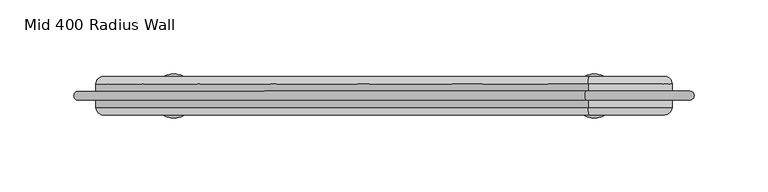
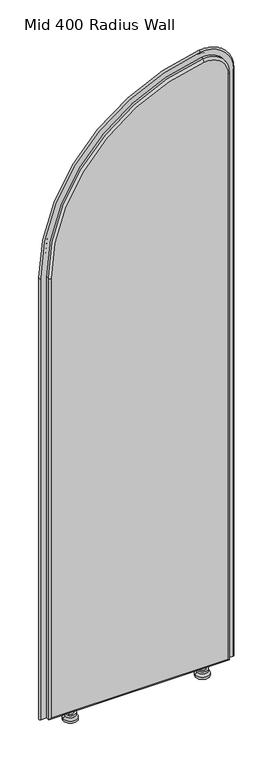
"""IFC4 building model written with IfcOpenShell, lengths in millimetres: furniture geometry, DBLTD_Sixteen3_PrivacyScreens_Artus_ArchRadius : Mid 400 Radius Wall."""

from ifc_helpers import new_model, si_unit, point, frame, origin, place, context, project, spatial, polyline, circle_curve, ellipse_curve, trimmed, source, transform, mapped, element, save
from ifc_brep_helpers import plane_surface, cylinder_surface, revolved_surface, advanced_brep


def mid_400_radius_wall_c67583d0(model_context):
    return source(origin(), model_context, "Body", "AdvancedBrep", [
        advanced_brep(
        [(-190.0, -807.0000009, 27.0), (-190.0, -807.0000009, 1025.0), (138.9552239, -807.0000009, 1401.5560129), (190.0, -807.0000009, 1356.9638535), (190.0, -807.0000009, 27.0), (190.0, -833.0000009, 27.0), (190.0, -833.0000009, 1356.9638535), (138.9552239, -833.0000009, 1401.5560129), (-190.0, -833.0000009, 1025.0), (-190.0, -833.0000009, 27.0), (138.2835821, -812.0000009, 1406.5106973), (-195.0, -812.0000009, 1025.0), (-195.0, -828.0000009, 1025.0), (138.2835821, -828.0000009, 1406.5106973), (-195.0, -812.0000009, 22.0), (-195.0, -828.0000009, 22.0), (195.0, -812.0000009, 22.0), (195.0, -828.0000009, 22.0), (195.0, -812.0000009, 1356.9638535), (195.0, -828.0000009, 1356.9638535)],
        [
            (0, 1),
            (1, 2, circle_curve(frame((190.0, -807.0000009, 1025.0), z_axis=(0.0, 1.0, 0.0), x_axis=(-0.13432835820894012, 0.0, 0.9909368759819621)), 380.0)),
            (2, 3, circle_curve(frame((145.0, -807.0000009, 1356.9638535), z_axis=(0.0, 1.0, 0.0), x_axis=(1.0, 0.0, 0.0)), 45.0)),
            (3, 4),
            (4, 0),
            (5, 6),
            (6, 7, circle_curve(frame((145.0, -833.0000009, 1356.9638535), z_axis=(0.0, -1.0, 0.0), x_axis=(1.0, 0.0, 0.0)), 45.0)),
            (7, 8, circle_curve(frame((190.0, -833.0000009, 1025.0), z_axis=(0.0, -1.0, 0.0), x_axis=(-0.13432835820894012, 0.0, 0.9909368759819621)), 380.0)),
            (8, 9),
            (9, 5),
            (10, 11, circle_curve(frame((190.0, -812.0000009, 1025.0), z_axis=(0.0, -1.0, 0.0), x_axis=(1.0, 0.0, 0.0)), 385.0)),
            (11, 12),
            (12, 13, circle_curve(frame((190.0, -828.0000009, 1025.0), z_axis=(0.0, 1.0, 0.0), x_axis=(1.0, 0.0, 0.0)), 385.0)),
            (13, 10),
            (11, 14),
            (14, 15),
            (15, 12),
            (14, 16),
            (16, 17),
            (17, 15),
            (16, 18),
            (18, 19),
            (19, 17),
            (13, 19, circle_curve(frame((145.0, -828.0000009, 1356.9638535), z_axis=(0.0, 1.0, 0.0), x_axis=(1.0, 0.0, 0.0)), 50.0)),
            (18, 10, circle_curve(frame((145.0, -812.0000009, 1356.9638535), z_axis=(0.0, -1.0, 0.0), x_axis=(1.0, 0.0, 0.0)), 50.0)),
            (14, 0, ellipse_curve(frame((-190.0, -812.0000009, 27.0), z_axis=(0.7071067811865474, 0.0, -0.7071067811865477), x_axis=(0.7071067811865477, 0.0, 0.7071067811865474)), 7.0710678, 5.0)),
            (4, 16, ellipse_curve(frame((190.0, -812.0000009, 27.0), z_axis=(-0.7071067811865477, 0.0, -0.7071067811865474), x_axis=(0.7071067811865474, 0.0, -0.7071067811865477)), 7.0710678, 5.0)),
            (9, 15, ellipse_curve(frame((-190.0, -828.0000009, 27.0), z_axis=(0.7071067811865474, 0.0, -0.7071067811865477), x_axis=(0.7071067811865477, 0.0, 0.7071067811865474)), 7.0710678, 5.0)),
            (17, 5, ellipse_curve(frame((190.0, -828.0000009, 27.0), z_axis=(-0.7071067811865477, 0.0, -0.7071067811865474), x_axis=(0.7071067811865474, 0.0, -0.7071067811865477)), 7.0710678, 5.0)),
            (3, 18, circle_curve(frame((190.0, -812.0000009, 1356.9638535), z_axis=(0.0, 0.0, -1.0), x_axis=(1.0, 0.0, 0.0)), 5.0)),
            (19, 6, circle_curve(frame((190.0, -828.0000009, 1356.9638535), z_axis=(0.0, 0.0, -1.0), x_axis=(1.0, 0.0, 0.0)), 5.0)),
            (2, 10, circle_curve(frame((138.9552239, -812.0000009, 1401.5560129), z_axis=(0.9909368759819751, 0.0, 0.13432835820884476), x_axis=(-0.13432835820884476, 0.0, 0.9909368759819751)), 5.0)),
            (13, 7, circle_curve(frame((138.9552239, -828.0000009, 1401.5560129), z_axis=(0.9909368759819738, 0.0, 0.13432835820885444), x_axis=(-0.13432835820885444, 0.0, 0.9909368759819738)), 5.0)),
            (1, 11, circle_curve(frame((-190.0, -812.0000009, 1025.0), z_axis=(0.0, 0.0, 0.9999999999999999), x_axis=(-0.9999999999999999, 0.0, 0.0)), 5.0)),
            (12, 8, circle_curve(frame((-190.0, -828.0000009, 1025.0), z_axis=(0.0, 0.0, 1.0), x_axis=(-1.0, 0.0, 0.0)), 5.0)),
        ],
        [
            plane_surface(frame((-195.0, -807.0000009, 22.0), z_axis=(0.0, 1.0, 0.0), x_axis=(0.0, 0.0, -1.0))),
            plane_surface(frame((-195.0, -833.0000009, 22.0), z_axis=(0.0, -1.0, 0.0), x_axis=(0.0, 0.0, 1.0))),
            cylinder_surface(frame((190.0, -833.0000009, 1025.0), z_axis=(0.0, 1.0, 0.0), x_axis=(1.0, 0.0, 0.0)), 385.0),
            plane_surface(frame((-195.0, -807.0000009, 1025.0), z_axis=(-1.0, 0.0, 0.0), x_axis=(0.0, -1.0, 0.0))),
            plane_surface(frame((-195.0, -807.0000009, 22.0), z_axis=(0.0, 0.0, -1.0), x_axis=(0.0, -1.0, 0.0))),
            plane_surface(frame((195.0, -807.0000009, 22.0), z_axis=(1.0, 0.0, 0.0), x_axis=(0.0, -1.0, 0.0))),
            cylinder_surface(frame((145.0, -833.0000009, 1356.9638535), z_axis=(0.0, 1.0, 0.0), x_axis=(1.0, 0.0, 0.0)), 50.0),
            cylinder_surface(frame((-195.0, -812.0000009, 27.0), z_axis=(1.0, 0.0, 0.0), x_axis=(0.0, 0.0, -1.0)), 5.0),
            cylinder_surface(frame((-195.0, -828.0000009, 27.0), z_axis=(1.0, 0.0, 0.0), x_axis=(0.0, 0.0, -1.0)), 5.0),
            cylinder_surface(frame((190.0, -812.0000009, 22.0), z_axis=(0.0, 0.0, 1.0), x_axis=(1.0, 0.0, 0.0)), 5.0),
            cylinder_surface(frame((190.0, -828.0000009, 22.0), z_axis=(0.0, 0.0, 1.0), x_axis=(1.0, 0.0, 0.0)), 5.0),
            revolved_surface(trimmed(ellipse_curve(frame((190.0, -812.0000009, 1356.9638535), z_axis=(0.0, 0.0, 1.0), x_axis=(1.0, 0.0, 0.0)), 5.0, 5.0), [point((195.0, -812.0000009, 1356.9638535))], [point((190.0, -807.0000009, 1356.9638535))], True, "CARTESIAN"), (145.0, -807.0000009, 1356.9638535), (0.0, 1.0, 0.0)),
            revolved_surface(trimmed(ellipse_curve(frame((190.0, -828.0000009, 1356.9638535), z_axis=(0.0, 0.0, 1.0), x_axis=(1.0, 0.0, 0.0)), 5.0, 5.0), [point((190.0, -833.0000009, 1356.9638535))], [point((195.0, -828.0000009, 1356.9638535))], True, "CARTESIAN"), (145.0, -807.0000009, 1356.9638535), (0.0, 1.0, 0.0)),
            revolved_surface(trimmed(ellipse_curve(frame((138.9552239, -812.0000009, 1401.5560129), z_axis=(-0.9909368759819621, 0.0, -0.13432835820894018), x_axis=(-0.13432835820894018, 0.0, 0.9909368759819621)), 5.0, 5.0), [point((138.2835821, -812.0000009, 1406.5106973))], [point((138.9552239, -807.0000009, 1401.5560129))], True, "CARTESIAN"), (190.0, -807.0000009, 1025.0), (0.0, 1.0, 0.0)),
            revolved_surface(trimmed(ellipse_curve(frame((138.9552239, -828.0000009, 1401.5560129), z_axis=(-0.9909368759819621, 0.0, -0.13432835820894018), x_axis=(-0.13432835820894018, 0.0, 0.9909368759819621)), 5.0, 5.0), [point((138.9552239, -833.0000009, 1401.5560129))], [point((138.2835821, -828.0000009, 1406.5106973))], True, "CARTESIAN"), (190.0, -807.0000009, 1025.0), (0.0, 1.0, 0.0)),
            cylinder_surface(frame((-190.0, -812.0000009, 1025.0), z_axis=(0.0, 0.0, -1.0), x_axis=(-1.0, 0.0, 0.0)), 5.0),
            cylinder_surface(frame((-190.0, -828.0000009, 1025.0), z_axis=(0.0, 0.0, -1.0), x_axis=(-1.0, 0.0, 0.0)), 5.0),
        ],
        [
            (0, [[1, 2, 3, 4, 5]]),
            (1, [[6, 7, 8, 9, 10]]),
            (2, [[11, 12, 13, 14]]),
            (3, [[15, 16, 17, -12]]),
            (4, [[18, 19, 20, -16]]),
            (5, [[21, 22, 23, -19]]),
            (6, [[24, -22, 25, -14]]),
            (7, [[-18, 26, -5, 27]]),
            (8, [[-10, 28, -20, 29]]),
            (9, [[-4, 30, -21, -27]]),
            (10, [[-23, 31, -6, -29]]),
            (11, [[-3, 32, -25, -30]]),
            (12, [[-24, 33, -7, -31]]),
            (13, [[-2, 34, -11, -32]]),
            (14, [[-13, 35, -8, -33]]),
            (15, [[-15, -34, -1, -26]]),
            (16, [[-9, -35, -17, -28]]),
        ],
    ),
        advanced_brep(
        [(206.9577057, -823.0000009, 22.0), (195.0, -823.0000009, 22.0), (195.0, -817.0000009, 22.0), (206.9577057, -817.0000009, 22.0), (-206.9577057, -823.0000009, 22.0), (-206.9577057, -817.0000009, 22.0), (-195.0, -817.0000009, 22.0), (-195.0, -823.0000009, 22.0), (206.9577057, -817.0000009, 1356.9638535), (206.9577057, -823.0000009, 1356.9638535), (195.0, -817.0000009, 1356.9638535), (138.2835821, -817.0000009, 1406.5106973), (-195.0, -817.0000009, 1025.0), (-206.9577057, -817.0000009, 1025.0), (136.6773231, -817.0000009, 1418.3600288), (195.0, -823.0000009, 1356.9638535), (136.6773231, -823.0000009, 1418.3600288), (-206.9577057, -823.0000009, 1025.0), (-195.0, -823.0000009, 1025.0), (138.2835821, -823.0000009, 1406.5106973)],
        [
            (0, 1),
            (1, 2),
            (2, 3),
            (3, 0, circle_curve(frame((206.9577057, -820.0000009, 22.0), z_axis=(0.0, 0.0, -1.0), x_axis=(1.0, 0.0, 0.0)), 3.0)),
            (4, 5, circle_curve(frame((-206.9577057, -820.0000009, 22.0), z_axis=(0.0, 0.0, -1.0), x_axis=(-1.0, 0.0, 0.0)), 3.0)),
            (5, 6),
            (6, 7),
            (7, 4),
            (3, 8),
            (8, 9, circle_curve(frame((206.9577057, -820.0000009, 1356.9638535), z_axis=(0.0, 0.0, -1.0), x_axis=(1.0, 0.0, 0.0)), 3.0)),
            (9, 0),
            (2, 10),
            (10, 11, circle_curve(frame((145.0, -817.0000009, 1356.9638535), z_axis=(0.0, -1.0, 0.0), x_axis=(1.0, 0.0, 0.0)), 50.0)),
            (11, 12, circle_curve(frame((190.0, -817.0000009, 1025.0), z_axis=(0.0, -1.0, 0.0), x_axis=(-0.13432835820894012, 0.0, 0.9909368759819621)), 385.0)),
            (12, 6),
            (5, 13),
            (13, 14, circle_curve(frame((190.0, -817.0000009, 1025.0), z_axis=(0.0, 1.0, 0.0), x_axis=(-0.13432835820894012, 0.0, 0.9909368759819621)), 396.9577057)),
            (14, 8, circle_curve(frame((145.0, -817.0000009, 1356.9638535), z_axis=(0.0, 1.0, 0.0), x_axis=(1.0, 0.0, 0.0)), 61.9577057)),
            (1, 15),
            (15, 10),
            (9, 16, circle_curve(frame((145.0, -823.0000009, 1356.9638535), z_axis=(0.0, -1.0, 0.0), x_axis=(1.0, 0.0, 0.0)), 61.9577057)),
            (16, 17, circle_curve(frame((190.0, -823.0000009, 1025.0), z_axis=(0.0, -1.0, 0.0), x_axis=(-0.13432835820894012, 0.0, 0.9909368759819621)), 396.9577057)),
            (17, 4),
            (7, 18),
            (18, 19, circle_curve(frame((190.0, -823.0000009, 1025.0), z_axis=(0.0, 1.0, 0.0), x_axis=(-0.13432835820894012, 0.0, 0.9909368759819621)), 385.0)),
            (19, 15, circle_curve(frame((145.0, -823.0000009, 1356.9638535), z_axis=(0.0, 1.0, 0.0), x_axis=(1.0, 0.0, 0.0)), 50.0)),
            (14, 16, circle_curve(frame((136.6773231, -820.0000009, 1418.3600288), z_axis=(0.9909368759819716, 0.0, 0.13432835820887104), x_axis=(-0.13432835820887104, 0.0, 0.9909368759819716)), 3.0)),
            (19, 11),
            (13, 17, circle_curve(frame((-206.9577057, -820.0000009, 1025.0), z_axis=(0.0, 0.0, 0.9999999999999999), x_axis=(-0.9999999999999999, 0.0, 0.0)), 3.0)),
            (18, 12),
        ],
        [
            plane_surface(frame((195.0, -807.0000009, 22.0), z_axis=(0.0, 0.0, -1.0), x_axis=(1.0, 0.0, 0.0))),
            plane_surface(frame((-195.0, -807.0000009, 22.0), z_axis=(0.0, 0.0, -1.0), x_axis=(-1.0, 0.0, 0.0))),
            cylinder_surface(frame((206.9577057, -820.0000009, 22.0), z_axis=(0.0, 0.0, -1.0), x_axis=(1.0, 0.0, 0.0)), 3.0),
            plane_surface(frame((206.9577057, -817.0000009, 22.0), z_axis=(0.0, 1.0, 0.0), x_axis=(0.0, 0.0, 1.0))),
            plane_surface(frame((195.0, -817.0000009, 22.0), z_axis=(-1.0, 0.0, 0.0), x_axis=(0.0, 0.0, 1.0))),
            plane_surface(frame((195.0, -823.0000009, 22.0), z_axis=(0.0, -1.0, 0.0), x_axis=(0.0, 0.0, 1.0))),
            revolved_surface(trimmed(ellipse_curve(frame((206.9577057, -820.0000009, 1356.9638535), z_axis=(0.0, 0.0, 1.0), x_axis=(1.0, 0.0, 0.0)), 3.0, 3.0), [point((206.9577057, -823.0000009, 1356.9638535))], [point((206.9577057, -817.0000009, 1356.9638535))], True, "CARTESIAN"), (145.0, -807.0000009, 1356.9638535), (0.0, 1.0, 0.0)),
            revolved_surface(polyline([(195.0, -817.0000009, 1356.9638535), (195.0, -823.0000009, 1356.9638535)]), (145.0, -807.0000009, 1356.9638535), (0.0, 1.0, 0.0)),
            revolved_surface(trimmed(ellipse_curve(frame((136.6773231, -820.0000009, 1418.3600288), z_axis=(-0.9909368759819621, 0.0, -0.13432835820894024), x_axis=(-0.13432835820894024, 0.0, 0.9909368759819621)), 3.0, 3.0), [point((136.6773231, -823.0000009, 1418.3600288))], [point((136.6773231, -817.0000009, 1418.3600288))], True, "CARTESIAN"), (190.0, -807.0000009, 1025.0), (0.0, 1.0, 0.0)),
            revolved_surface(polyline([(138.28358208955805, -817.0000009, 1406.5106972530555), (138.28358208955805, -823.0000009, 1406.5106972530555)]), (190.0, -807.0000009, 1025.0), (0.0, 1.0, 0.0)),
            cylinder_surface(frame((-206.9577057, -820.0000009, 1025.0), z_axis=(0.0, 0.0, 1.0), x_axis=(-1.0, 0.0, 0.0)), 3.0),
            plane_surface(frame((-195.0, -817.0000009, 1025.0), z_axis=(1.0, 0.0, 0.0), x_axis=(0.0, 0.0, -1.0))),
        ],
        [
            (0, [[1, 2, 3, 4]]),
            (1, [[5, 6, 7, 8]]),
            (2, [[9, 10, 11, -4]]),
            (3, [[12, 13, 14, 15, -6, 16, 17, 18, -9, -3]]),
            (4, [[19, 20, -12, -2]]),
            (5, [[-11, 21, 22, 23, -8, 24, 25, 26, -19, -1]]),
            (6, [[27, -21, -10, -18]]),
            (7, [[28, -13, -20, -26]]),
            (8, [[29, -22, -27, -17]]),
            (9, [[30, -14, -28, -25]]),
            (10, [[-16, -5, -23, -29]]),
            (11, [[-24, -7, -15, -30]]),
        ],
    ),
        advanced_brep(
        [(142.2938623, -820.0, 22.0), (135.2938623, -820.0, 22.0), (149.2938623, -820.0, 22.0), (135.2938623, -820.0, 15.0), (149.2938623, -820.0, 15.0), (130.8431626, -820.0, 15.0), (153.744562, -820.0, 15.0), (130.8431626, -820.0, 10.0), (153.744562, -820.0, 10.0), (127.2938623, -820.0, 5.0), (157.2938623, -820.0, 5.0), (127.2938623, -820.0, 0.0), (157.2938623, -820.0, 0.0), (142.2938623, -820.0, 0.0)],
        [
            (0, 1),
            (1, 2, circle_curve(frame((142.2938623, -820.0, 22.0), z_axis=(0.0, 0.0, 1.0), x_axis=(1.0, 0.0, 0.0)), 7.0)),
            (2, 0),
            (2, 1, circle_curve(frame((142.2938623, -820.0, 22.0), z_axis=(0.0, 0.0, 1.0), x_axis=(1.0, 0.0, 0.0)), 7.0)),
            (1, 3),
            (3, 4, circle_curve(frame((142.2938623, -820.0, 15.0), z_axis=(0.0, 0.0, 1.0), x_axis=(1.0, 0.0, 0.0)), 7.0)),
            (4, 2),
            (4, 3, circle_curve(frame((142.2938623, -820.0, 15.0), z_axis=(0.0, 0.0, 1.0), x_axis=(1.0, 0.0, 0.0)), 7.0)),
            (3, 5),
            (5, 6, circle_curve(frame((142.2938623, -820.0, 15.0), z_axis=(0.0, 0.0, 1.0), x_axis=(1.0, 0.0, 0.0)), 11.4506997)),
            (6, 4),
            (6, 5, circle_curve(frame((142.2938623, -820.0, 15.0), z_axis=(0.0, 0.0, 1.0), x_axis=(1.0, 0.0, 0.0)), 11.4506997)),
            (5, 7),
            (7, 8, circle_curve(frame((142.2938623, -820.0, 10.0), z_axis=(0.0, 0.0, 1.0), x_axis=(1.0, 0.0, 0.0)), 11.4506997)),
            (8, 6),
            (8, 7, circle_curve(frame((142.2938623, -820.0, 10.0), z_axis=(0.0, 0.0, 1.0), x_axis=(1.0, 0.0, 0.0)), 11.4506997)),
            (7, 9),
            (9, 10, circle_curve(frame((142.2938623, -820.0, 5.0), z_axis=(0.0, 0.0, 1.0), x_axis=(1.0, 0.0, 0.0)), 15.0)),
            (10, 8),
            (10, 9, circle_curve(frame((142.2938623, -820.0, 5.0), z_axis=(0.0, 0.0, 1.0), x_axis=(1.0, 0.0, 0.0)), 15.0)),
            (9, 11),
            (11, 12, circle_curve(frame((142.2938623, -820.0, 0.0), z_axis=(0.0, 0.0, 1.0), x_axis=(1.0, 0.0, 0.0)), 15.0)),
            (12, 10),
            (12, 11, circle_curve(frame((142.2938623, -820.0, 0.0), z_axis=(0.0, 0.0, 1.0), x_axis=(1.0, 0.0, 0.0)), 15.0)),
            (11, 13),
            (13, 12),
        ],
        [
            plane_surface(frame((142.2938623, -820.0, 22.0), z_axis=(0.0, 0.0, 1.0), x_axis=(1.0, 0.0, 0.0))),
            cylinder_surface(frame((142.2938623, -820.0, 5.0), z_axis=(0.0, 0.0, 1.0), x_axis=(1.0, 0.0, 0.0)), 7.0),
            plane_surface(frame((142.2938623, -820.0, 15.0), z_axis=(0.0, 0.0, 1.0), x_axis=(1.0, 0.0, 0.0))),
            cylinder_surface(frame((142.2938623, -820.0, 5.0), z_axis=(0.0, 0.0, 1.0), x_axis=(1.0, 0.0, 0.0)), 11.4506997),
            revolved_surface(polyline([(157.2938623, -820.0, 5.0), (153.744562, -820.0, 10.0)]), (142.2938623, -820.0, 5.0), (0.0, 0.0, 1.0)),
            cylinder_surface(frame((142.2938623, -820.0, 5.0), z_axis=(0.0, 0.0, 1.0), x_axis=(1.0, 0.0, 0.0)), 15.0),
            plane_surface(frame((142.2938623, -820.0, 0.0), z_axis=(0.0, 0.0, -1.0), x_axis=(1.0, 0.0, 0.0))),
        ],
        [
            (0, [[1, 2, 3]]),
            (0, [[-3, 4, -1]]),
            (1, [[5, 6, 7, -2]]),
            (1, [[-7, 8, -5, -4]]),
            (2, [[9, 10, 11, -6]]),
            (2, [[-11, 12, -9, -8]]),
            (3, [[13, 14, 15, -10]]),
            (3, [[-15, 16, -13, -12]]),
            (4, [[17, 18, 19, -14]]),
            (4, [[-19, 20, -17, -16]]),
            (5, [[21, 22, 23, -18]]),
            (5, [[-23, 24, -21, -20]]),
            (6, [[25, 26, -22]]),
            (6, [[-26, -25, -24]]),
        ],
    ),
        advanced_brep(
        [(-135.2938623, -820.0, 22.0), (-142.2938623, -820.0, 22.0), (-149.2938623, -820.0, 22.0), (-135.2938623, -820.0, 15.0), (-149.2938623, -820.0, 15.0), (-130.8431626, -820.0, 15.0), (-153.744562, -820.0, 15.0), (-130.8431626, -820.0, 10.0), (-153.744562, -820.0, 10.0), (-127.2938623, -820.0, 5.0), (-157.2938623, -820.0, 5.0), (-127.2938623, -820.0, 0.0), (-157.2938623, -820.0, 0.0), (-142.2938623, -820.0, 0.0)],
        [
            (0, 1),
            (1, 2),
            (2, 0, circle_curve(frame((-142.2938623, -820.0, 22.0), z_axis=(0.0, 0.0, 1.0), x_axis=(-1.0, 0.0, 0.0)), 7.0)),
            (0, 2, circle_curve(frame((-142.2938623, -820.0, 22.0), z_axis=(0.0, 0.0, 1.0), x_axis=(-1.0, 0.0, 0.0)), 7.0)),
            (3, 0),
            (2, 4),
            (4, 3, circle_curve(frame((-142.2938623, -820.0, 15.0), z_axis=(0.0, 0.0, 1.0), x_axis=(-1.0, 0.0, 0.0)), 7.0)),
            (3, 4, circle_curve(frame((-142.2938623, -820.0, 15.0), z_axis=(0.0, 0.0, 1.0), x_axis=(-1.0, 0.0, 0.0)), 7.0)),
            (5, 3),
            (4, 6),
            (6, 5, circle_curve(frame((-142.2938623, -820.0, 15.0), z_axis=(0.0, 0.0, 1.0), x_axis=(-1.0, 0.0, 0.0)), 11.4506997)),
            (5, 6, circle_curve(frame((-142.2938623, -820.0, 15.0), z_axis=(0.0, 0.0, 1.0), x_axis=(-1.0, 0.0, 0.0)), 11.4506997)),
            (7, 5),
            (6, 8),
            (8, 7, circle_curve(frame((-142.2938623, -820.0, 10.0), z_axis=(0.0, 0.0, 1.0), x_axis=(-1.0, 0.0, 0.0)), 11.4506997)),
            (7, 8, circle_curve(frame((-142.2938623, -820.0, 10.0), z_axis=(0.0, 0.0, 1.0), x_axis=(-1.0, 0.0, 0.0)), 11.4506997)),
            (9, 7),
            (8, 10),
            (10, 9, circle_curve(frame((-142.2938623, -820.0, 5.0), z_axis=(0.0, 0.0, 1.0), x_axis=(-1.0, 0.0, 0.0)), 15.0)),
            (9, 10, circle_curve(frame((-142.2938623, -820.0, 5.0), z_axis=(0.0, 0.0, 1.0), x_axis=(-1.0, 0.0, 0.0)), 15.0)),
            (11, 9),
            (10, 12),
            (12, 11, circle_curve(frame((-142.2938623, -820.0, 0.0), z_axis=(0.0, 0.0, 1.0), x_axis=(-1.0, 0.0, 0.0)), 15.0)),
            (11, 12, circle_curve(frame((-142.2938623, -820.0, 0.0), z_axis=(0.0, 0.0, 1.0), x_axis=(-1.0, 0.0, 0.0)), 15.0)),
            (13, 11),
            (12, 13),
        ],
        [
            plane_surface(frame((-142.2938623, -820.0, 22.0), z_axis=(0.0, 0.0, 1.0), x_axis=(-1.0, 0.0, 0.0))),
            cylinder_surface(frame((-142.2938623, -820.0, 5.0), z_axis=(0.0, 0.0, -1.0), x_axis=(-1.0, 0.0, 0.0)), 7.0),
            plane_surface(frame((-142.2938623, -820.0, 15.0), z_axis=(0.0, 0.0, 1.0), x_axis=(-1.0, 0.0, 0.0))),
            cylinder_surface(frame((-142.2938623, -820.0, 5.0), z_axis=(0.0, 0.0, -1.0), x_axis=(-1.0, 0.0, 0.0)), 11.4506997),
            revolved_surface(polyline([(-153.744562, -820.0, 10.0), (-157.2938623, -820.0, 5.0)]), (-142.2938623, -820.0, 5.0), (0.0, 0.0, -1.0)),
            cylinder_surface(frame((-142.2938623, -820.0, 5.0), z_axis=(0.0, 0.0, -1.0), x_axis=(-1.0, 0.0, 0.0)), 15.0),
            plane_surface(frame((-142.2938623, -820.0, 0.0), z_axis=(0.0, 0.0, -1.0), x_axis=(-1.0, 0.0, 0.0))),
        ],
        [
            (0, [[1, 2, 3]]),
            (0, [[-2, -1, 4]]),
            (1, [[5, -3, 6, 7]]),
            (1, [[-6, -4, -5, 8]]),
            (2, [[9, -7, 10, 11]]),
            (2, [[-10, -8, -9, 12]]),
            (3, [[13, -11, 14, 15]]),
            (3, [[-14, -12, -13, 16]]),
            (4, [[17, -15, 18, 19]]),
            (4, [[-18, -16, -17, 20]]),
            (5, [[21, -19, 22, 23]]),
            (5, [[-22, -20, -21, 24]]),
            (6, [[25, -23, 26]]),
            (6, [[-26, -24, -25]]),
        ],
    ),
    ])


if __name__ == "__main__":
    model = new_model("IFC4")
    model_context = context("Model", 3, world=origin())
    ifc_project = project(units=[si_unit("LENGTHUNIT", "METRE", prefix="MILLI")], contexts=[model_context])
    site = spatial("IfcSite", under=ifc_project)
    building = spatial("IfcBuilding", under=site)
    placement = place(None, origin())
    mid_400_radius_wall_shape = mid_400_radius_wall_c67583d0(model_context)
    element("IfcFurniture", 1, ObjectType="DBLTD_Sixteen3_PrivacyScreens_Artus_ArchRadius : Mid 400 Radius Wall", at=placement, inside=building, context=model_context, shape_type="MappedRepresentation", body=[
        mapped(mid_400_radius_wall_shape, transform((0.0, 0.0, 0.0), x_axis=(1.0, 0.0, 0.0), y_axis=(0.0, 1.0, 0.0), z_axis=(0.0, 0.0, 1.0))),
    ])
    save(model, "model.ifc")
